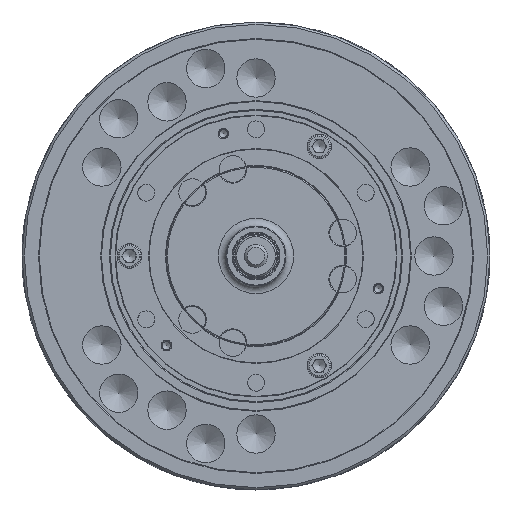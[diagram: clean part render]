
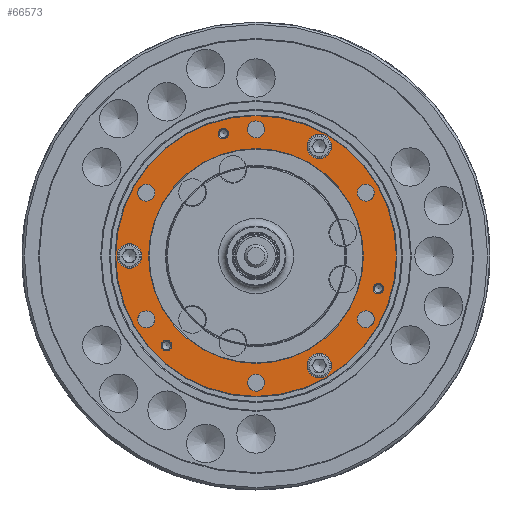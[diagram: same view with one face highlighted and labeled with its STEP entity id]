
A CAD part, left-side view. The second image highlights one B-rep face of the part: STEP entity #66573.
In plain terms, the highlighted planar face has unit normal (-1, 0, 0).
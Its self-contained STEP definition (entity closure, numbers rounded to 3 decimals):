
#493 = FACE_BOUND ( 'NONE', #59496, .T. ) ;
#1580 = DIRECTION ( 'NONE',  ( -1., 0., 0. ) ) ;
#2682 = CARTESIAN_POINT ( 'NONE',  ( -119., 0., -154.1 ) ) ;
#2967 = FACE_BOUND ( 'NONE', #87716, .T. ) ;
#3179 = EDGE_LOOP ( 'NONE', ( #45411 ) ) ;
#4160 = FACE_BOUND ( 'NONE', #70378, .T. ) ;
#5103 = VERTEX_POINT ( 'NONE', #91413 ) ;
#5114 = CARTESIAN_POINT ( 'NONE',  ( -119., -142.981, 82.55 ) ) ;
#5407 = VERTEX_POINT ( 'NONE', #6868 ) ;
#5454 = DIRECTION ( 'NONE',  ( -1., 0., 0. ) ) ;
#5496 = EDGE_CURVE ( 'NONE', #92431, #92431, #54591, .T. ) ;
#5780 = DIRECTION ( 'NONE',  ( 0., 0., 1. ) ) ;
#6868 = CARTESIAN_POINT ( 'NONE',  ( -119., -159.378, -35.905 ) ) ;
#7199 = CARTESIAN_POINT ( 'NONE',  ( -119., 42.705, 166.178 ) ) ;
#7610 = EDGE_CURVE ( 'NONE', #66644, #66644, #76240, .T. ) ;
#8889 = AXIS2_PLACEMENT_3D ( 'NONE', #80083, #33221, #34202 ) ;
#9061 = FACE_BOUND ( 'NONE', #3179, .T. ) ;
#9263 = AXIS2_PLACEMENT_3D ( 'NONE', #26142, #66143, #18561 ) ;
#9317 = CIRCLE ( 'NONE', #34319, 11. ) ;
#10006 = ORIENTED_EDGE ( 'NONE', *, *, #66372, .F. ) ;
#10231 = EDGE_LOOP ( 'NONE', ( #91321 ) ) ;
#10893 = CARTESIAN_POINT ( 'NONE',  ( -119., 0., 183. ) ) ;
#10988 = EDGE_CURVE ( 'NONE', #58100, #58100, #83009, .T. ) ;
#11479 = VERTEX_POINT ( 'NONE', #7199 ) ;
#12802 = FACE_BOUND ( 'NONE', #75641, .T. ) ;
#13041 = DIRECTION ( 'NONE',  ( 0., 0.866, -0.5 ) ) ;
#13280 = CARTESIAN_POINT ( 'NONE',  ( -119., -142.981, -71.55 ) ) ;
#13333 = DIRECTION ( 'NONE',  ( 0., 0., 1. ) ) ;
#13554 = ORIENTED_EDGE ( 'NONE', *, *, #7610, .F. ) ;
#13766 = CARTESIAN_POINT ( 'NONE',  ( -119., 142.981, -71.55 ) ) ;
#14948 = AXIS2_PLACEMENT_3D ( 'NONE', #5114, #59961, #5780 ) ;
#15814 = EDGE_CURVE ( 'NONE', #28764, #28764, #64207, .T. ) ;
#16407 = EDGE_LOOP ( 'NONE', ( #13554 ) ) ;
#16442 = FACE_BOUND ( 'NONE', #69424, .T. ) ;
#16531 = DIRECTION ( 'NONE',  ( 0., 0., 1. ) ) ;
#16615 = EDGE_LOOP ( 'NONE', ( #21860 ) ) ;
#16732 = ORIENTED_EDGE ( 'NONE', *, *, #18503, .F. ) ;
#16766 = CIRCLE ( 'NONE', #8889, 11. ) ;
#17850 = EDGE_CURVE ( 'NONE', #5407, #5407, #19927, .T. ) ;
#18118 = CARTESIAN_POINT ( 'NONE',  ( -119., 142.981, 93.55 ) ) ;
#18299 = PLANE ( 'NONE',  #22285 ) ;
#18503 = EDGE_CURVE ( 'NONE', #11479, #11479, #82525, .T. ) ;
#18561 = DIRECTION ( 'NONE',  ( 0., 0., 1. ) ) ;
#18995 = VERTEX_POINT ( 'NONE', #79818 ) ;
#19927 = CIRCLE ( 'NONE', #56523, 6.8 ) ;
#21413 = FACE_BOUND ( 'NONE', #44504, .T. ) ;
#21860 = ORIENTED_EDGE ( 'NONE', *, *, #17850, .F. ) ;
#22229 = CARTESIAN_POINT ( 'NONE',  ( -119., 0., 0. ) ) ;
#22285 = AXIS2_PLACEMENT_3D ( 'NONE', #42327, #35489, #66942 ) ;
#26142 = CARTESIAN_POINT ( 'NONE',  ( -119., 42.705, 159.378 ) ) ;
#28764 = VERTEX_POINT ( 'NONE', #13766 ) ;
#30715 = AXIS2_PLACEMENT_3D ( 'NONE', #51735, #5454, #13333 ) ;
#31416 = ORIENTED_EDGE ( 'NONE', *, *, #15814, .T. ) ;
#31786 = EDGE_LOOP ( 'NONE', ( #64218 ) ) ;
#32104 = CARTESIAN_POINT ( 'NONE',  ( -119., -82.5, 142.894 ) ) ;
#32851 = CARTESIAN_POINT ( 'NONE',  ( -119., 165., 0. ) ) ;
#33221 = DIRECTION ( 'NONE',  ( 1., 0., 0. ) ) ;
#34202 = DIRECTION ( 'NONE',  ( 0., 0., 1. ) ) ;
#34319 = AXIS2_PLACEMENT_3D ( 'NONE', #59341, #50754, #34732 ) ;
#34354 = CARTESIAN_POINT ( 'NONE',  ( -119., 142.981, 82.55 ) ) ;
#34732 = DIRECTION ( 'NONE',  ( 0., 0., 1. ) ) ;
#35489 = DIRECTION ( 'NONE',  ( -1., 0., 0. ) ) ;
#36007 = VERTEX_POINT ( 'NONE', #50638 ) ;
#36137 = ORIENTED_EDGE ( 'NONE', *, *, #97740, .F. ) ;
#36732 = DIRECTION ( 'NONE',  ( 1., 0., 0. ) ) ;
#38981 = DIRECTION ( 'NONE',  ( 0., 0., 1. ) ) ;
#40679 = DIRECTION ( 'NONE',  ( -1., 0., 0. ) ) ;
#40824 = CIRCLE ( 'NONE', #87063, 16. ) ;
#42245 = FACE_BOUND ( 'NONE', #16615, .T. ) ;
#42327 = CARTESIAN_POINT ( 'NONE',  ( -119., 0., 0. ) ) ;
#42704 = EDGE_CURVE ( 'NONE', #18995, #18995, #44068, .T. ) ;
#43322 = EDGE_LOOP ( 'NONE', ( #83913 ) ) ;
#43503 = EDGE_LOOP ( 'NONE', ( #31416 ) ) ;
#44068 = CIRCLE ( 'NONE', #101161, 11. ) ;
#44504 = EDGE_LOOP ( 'NONE', ( #16732 ) ) ;
#45411 = ORIENTED_EDGE ( 'NONE', *, *, #83601, .F. ) ;
#46766 = CIRCLE ( 'NONE', #54632, 183. ) ;
#46961 = CARTESIAN_POINT ( 'NONE',  ( -119., 165., 16. ) ) ;
#48325 = FACE_BOUND ( 'NONE', #57820, .T. ) ;
#48499 = DIRECTION ( 'NONE',  ( -1., 0., 0. ) ) ;
#49877 = DIRECTION ( 'NONE',  ( 0., 0., 1. ) ) ;
#50303 = CARTESIAN_POINT ( 'NONE',  ( -119., -96.356, 134.894 ) ) ;
#50638 = CARTESIAN_POINT ( 'NONE',  ( -119., 116.673, -109.873 ) ) ;
#50754 = DIRECTION ( 'NONE',  ( 1., 0., 0. ) ) ;
#50887 = CIRCLE ( 'NONE', #85896, 16. ) ;
#51735 = CARTESIAN_POINT ( 'NONE',  ( -119., 116.673, -116.673 ) ) ;
#51994 = VERTEX_POINT ( 'NONE', #10893 ) ;
#53220 = FACE_BOUND ( 'NONE', #43322, .T. ) ;
#53461 = DIRECTION ( 'NONE',  ( -1., 0., 0. ) ) ;
#54591 = CIRCLE ( 'NONE', #14948, 11. ) ;
#54632 = AXIS2_PLACEMENT_3D ( 'NONE', #22229, #78361, #38981 ) ;
#55659 = FACE_BOUND ( 'NONE', #10231, .T. ) ;
#56523 = AXIS2_PLACEMENT_3D ( 'NONE', #64596, #40679, #49877 ) ;
#57058 = DIRECTION ( 'NONE',  ( 0., 0., 1. ) ) ;
#57820 = EDGE_LOOP ( 'NONE', ( #10006 ) ) ;
#58100 = VERTEX_POINT ( 'NONE', #46961 ) ;
#59333 = CARTESIAN_POINT ( 'NONE',  ( -119., -82.5, -142.894 ) ) ;
#59341 = CARTESIAN_POINT ( 'NONE',  ( -119., -142.981, -82.55 ) ) ;
#59496 = EDGE_LOOP ( 'NONE', ( #36137 ) ) ;
#59961 = DIRECTION ( 'NONE',  ( 1., 0., 0. ) ) ;
#60029 = DIRECTION ( 'NONE',  ( 0., 0., 1. ) ) ;
#60249 = ORIENTED_EDGE ( 'NONE', *, *, #88478, .T. ) ;
#60631 = ORIENTED_EDGE ( 'NONE', *, *, #10988, .F. ) ;
#60872 = CIRCLE ( 'NONE', #77947, 11. ) ;
#62369 = AXIS2_PLACEMENT_3D ( 'NONE', #64809, #64483, #16531 ) ;
#64207 = CIRCLE ( 'NONE', #93173, 11. ) ;
#64218 = ORIENTED_EDGE ( 'NONE', *, *, #80067, .T. ) ;
#64483 = DIRECTION ( 'NONE',  ( -1., 0., 0. ) ) ;
#64596 = CARTESIAN_POINT ( 'NONE',  ( -119., -159.378, -42.705 ) ) ;
#64809 = CARTESIAN_POINT ( 'NONE',  ( -119., 0., 0. ) ) ;
#65426 = VERTEX_POINT ( 'NONE', #13280 ) ;
#66116 = DIRECTION ( 'NONE',  ( 0., 0., 1. ) ) ;
#66143 = DIRECTION ( 'NONE',  ( -1., 0., 0. ) ) ;
#66372 = EDGE_CURVE ( 'NONE', #75160, #75160, #50887, .T. ) ;
#66573 = ADVANCED_FACE ( 'NONE', ( #9061, #53220, #78990, #16442, #55659, #12802, #48325, #493, #42245, #21413, #4160, #2967, #71560, #90007 ), #18299, .T. ) ;
#66644 = VERTEX_POINT ( 'NONE', #93198 ) ;
#66942 = DIRECTION ( 'NONE',  ( 0., 0., 1. ) ) ;
#69270 = CIRCLE ( 'NONE', #30715, 6.8 ) ;
#69424 = EDGE_LOOP ( 'NONE', ( #79711 ) ) ;
#70378 = EDGE_LOOP ( 'NONE', ( #60631 ) ) ;
#71560 = FACE_OUTER_BOUND ( 'NONE', #31786, .T. ) ;
#72993 = EDGE_CURVE ( 'NONE', #93551, #93551, #16766, .T. ) ;
#73841 = EDGE_CURVE ( 'NONE', #36007, #36007, #69270, .T. ) ;
#75160 = VERTEX_POINT ( 'NONE', #50303 ) ;
#75641 = EDGE_LOOP ( 'NONE', ( #60249 ) ) ;
#76240 = CIRCLE ( 'NONE', #62369, 140. ) ;
#77097 = CARTESIAN_POINT ( 'NONE',  ( -119., -142.981, 93.55 ) ) ;
#77741 = VERTEX_POINT ( 'NONE', #18118 ) ;
#77947 = AXIS2_PLACEMENT_3D ( 'NONE', #34354, #88459, #66116 ) ;
#78361 = DIRECTION ( 'NONE',  ( -1., 0., 0. ) ) ;
#78644 = ORIENTED_EDGE ( 'NONE', *, *, #73841, .F. ) ;
#78990 = FACE_BOUND ( 'NONE', #43503, .T. ) ;
#79711 = ORIENTED_EDGE ( 'NONE', *, *, #72993, .T. ) ;
#79818 = CARTESIAN_POINT ( 'NONE',  ( -119., 0., 176.1 ) ) ;
#80067 = EDGE_CURVE ( 'NONE', #51994, #51994, #46766, .T. ) ;
#80083 = CARTESIAN_POINT ( 'NONE',  ( -119., 0., -165.1 ) ) ;
#82525 = CIRCLE ( 'NONE', #9263, 6.8 ) ;
#83009 = CIRCLE ( 'NONE', #84917, 16. ) ;
#83601 = EDGE_CURVE ( 'NONE', #77741, #77741, #60872, .T. ) ;
#83666 = CARTESIAN_POINT ( 'NONE',  ( -119., 142.981, -82.55 ) ) ;
#83913 = ORIENTED_EDGE ( 'NONE', *, *, #42704, .F. ) ;
#84917 = AXIS2_PLACEMENT_3D ( 'NONE', #32851, #1580, #57058 ) ;
#85896 = AXIS2_PLACEMENT_3D ( 'NONE', #32104, #48499, #94729 ) ;
#87063 = AXIS2_PLACEMENT_3D ( 'NONE', #59333, #98680, #13041 ) ;
#87716 = EDGE_LOOP ( 'NONE', ( #78644 ) ) ;
#88459 = DIRECTION ( 'NONE',  ( -1., 0., 0. ) ) ;
#88478 = EDGE_CURVE ( 'NONE', #65426, #65426, #9317, .T. ) ;
#90007 = FACE_BOUND ( 'NONE', #16407, .T. ) ;
#91321 = ORIENTED_EDGE ( 'NONE', *, *, #5496, .T. ) ;
#91413 = CARTESIAN_POINT ( 'NONE',  ( -119., -68.644, -150.894 ) ) ;
#92175 = DIRECTION ( 'NONE',  ( 0., 0., 1. ) ) ;
#92431 = VERTEX_POINT ( 'NONE', #77097 ) ;
#93173 = AXIS2_PLACEMENT_3D ( 'NONE', #83666, #36732, #92175 ) ;
#93198 = CARTESIAN_POINT ( 'NONE',  ( -119., 0., 140. ) ) ;
#93551 = VERTEX_POINT ( 'NONE', #2682 ) ;
#94729 = DIRECTION ( 'NONE',  ( 0., -0.866, -0.5 ) ) ;
#97740 = EDGE_CURVE ( 'NONE', #5103, #5103, #40824, .T. ) ;
#98680 = DIRECTION ( 'NONE',  ( -1., 0., 0. ) ) ;
#99354 = CARTESIAN_POINT ( 'NONE',  ( -119., 0., 165.1 ) ) ;
#101161 = AXIS2_PLACEMENT_3D ( 'NONE', #99354, #53461, #60029 ) ;
